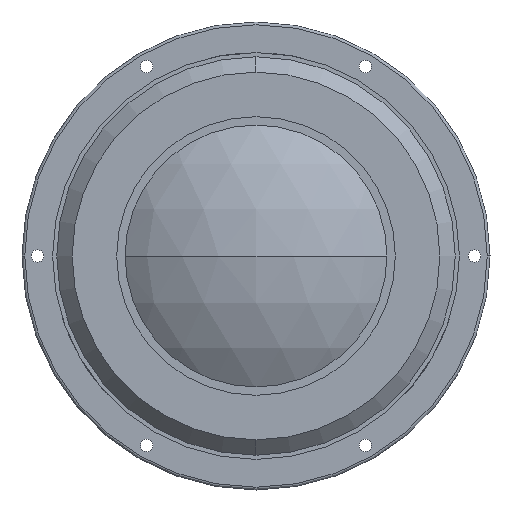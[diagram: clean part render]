
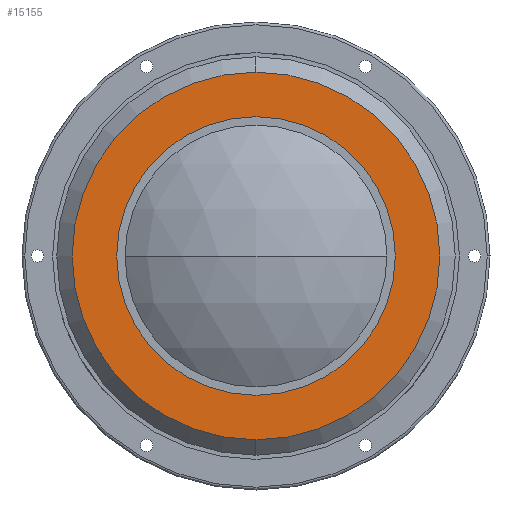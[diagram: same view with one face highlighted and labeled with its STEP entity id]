
A CAD part, front view. The second image highlights one B-rep face of the part: STEP entity #15155.
In plain terms, the highlighted planar face has unit normal (0, -1, 0).
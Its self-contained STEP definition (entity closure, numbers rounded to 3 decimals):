
#3718 = AXIS2_PLACEMENT_3D ( 'NONE', #97890, #265576, #121990 ) ;
#10997 = CIRCLE ( 'NONE', #129302, 50. ) ;
#12733 = DIRECTION ( 'NONE',  ( 0., 0., -1. ) ) ;
#15155 = ADVANCED_FACE ( 'NONE', ( #92906, #156690 ), #97516, .T. ) ;
#22980 = CIRCLE ( 'NONE', #3718, 50. ) ;
#26432 = DIRECTION ( 'NONE',  ( 0., -1., 0. ) ) ;
#32375 = VERTEX_POINT ( 'NONE', #64128 ) ;
#32442 = ORIENTED_EDGE ( 'NONE', *, *, #48456, .F. ) ;
#43794 = EDGE_CURVE ( 'NONE', #32375, #120685, #218840, .T. ) ;
#45635 = ORIENTED_EDGE ( 'NONE', *, *, #43794, .T. ) ;
#48456 = EDGE_CURVE ( 'NONE', #115794, #225230, #22980, .T. ) ;
#50106 = EDGE_LOOP ( 'NONE', ( #280908, #32442 ) ) ;
#55657 = CIRCLE ( 'NONE', #272487, 66. ) ;
#56996 = CARTESIAN_POINT ( 'NONE',  ( 0., -36., 66. ) ) ;
#63398 = DIRECTION ( 'NONE',  ( 0., -1., 0. ) ) ;
#64128 = CARTESIAN_POINT ( 'NONE',  ( 0., -36., -66. ) ) ;
#92906 = FACE_OUTER_BOUND ( 'NONE', #196688, .T. ) ;
#97516 = PLANE ( 'NONE',  #256418 ) ;
#97890 = CARTESIAN_POINT ( 'NONE',  ( 0., -36., 0. ) ) ;
#101818 = EDGE_CURVE ( 'NONE', #120685, #32375, #55657, .T. ) ;
#106309 = CARTESIAN_POINT ( 'NONE',  ( 0., -36., 0. ) ) ;
#115794 = VERTEX_POINT ( 'NONE', #166413 ) ;
#120685 = VERTEX_POINT ( 'NONE', #56996 ) ;
#121990 = DIRECTION ( 'NONE',  ( 0., 0., -1. ) ) ;
#129302 = AXIS2_PLACEMENT_3D ( 'NONE', #206843, #63398, #230877 ) ;
#130496 = DIRECTION ( 'NONE',  ( 0., 0., -1. ) ) ;
#156199 = DIRECTION ( 'NONE',  ( 0., -1., 0. ) ) ;
#156690 = FACE_BOUND ( 'NONE', #50106, .T. ) ;
#166413 = CARTESIAN_POINT ( 'NONE',  ( 0., -36., 50. ) ) ;
#193874 = DIRECTION ( 'NONE',  ( 0., 0., -1. ) ) ;
#196688 = EDGE_LOOP ( 'NONE', ( #239362, #45635 ) ) ;
#201414 = CARTESIAN_POINT ( 'NONE',  ( 0., -36., -50. ) ) ;
#206843 = CARTESIAN_POINT ( 'NONE',  ( 0., -36., 0. ) ) ;
#218840 = CIRCLE ( 'NONE', #226936, 66. ) ;
#225230 = VERTEX_POINT ( 'NONE', #201414 ) ;
#226936 = AXIS2_PLACEMENT_3D ( 'NONE', #106309, #274093, #130496 ) ;
#230877 = DIRECTION ( 'NONE',  ( 0., 0., -1. ) ) ;
#239362 = ORIENTED_EDGE ( 'NONE', *, *, #101818, .T. ) ;
#241032 = CARTESIAN_POINT ( 'NONE',  ( 66., -36., 0. ) ) ;
#256418 = AXIS2_PLACEMENT_3D ( 'NONE', #241032, #26432, #193874 ) ;
#265576 = DIRECTION ( 'NONE',  ( 0., -1., 0. ) ) ;
#272487 = AXIS2_PLACEMENT_3D ( 'NONE', #299747, #156199, #12733 ) ;
#274093 = DIRECTION ( 'NONE',  ( 0., -1., 0. ) ) ;
#280908 = ORIENTED_EDGE ( 'NONE', *, *, #303115, .F. ) ;
#299747 = CARTESIAN_POINT ( 'NONE',  ( 0., -36., 0. ) ) ;
#303115 = EDGE_CURVE ( 'NONE', #225230, #115794, #10997, .T. ) ;
